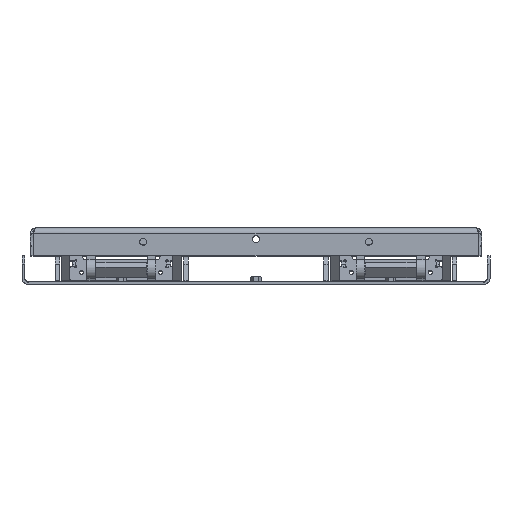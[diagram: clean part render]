
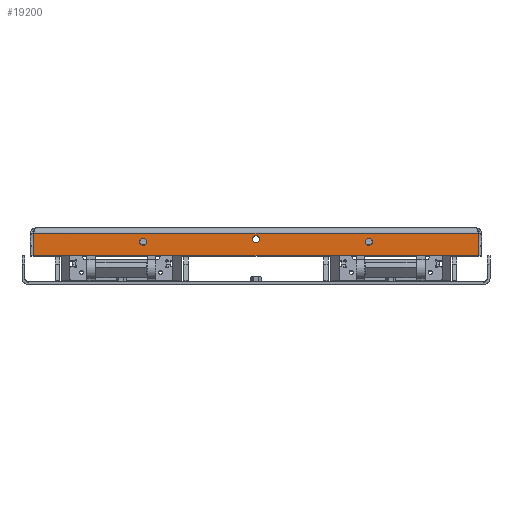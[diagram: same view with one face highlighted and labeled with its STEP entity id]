
A CAD part, front view. The second image highlights one B-rep face of the part: STEP entity #19200.
In plain terms, the highlighted planar face has unit normal (0, -1, 0.001) as drawn and (-1, 0, 0) by its records, which use the part's own axes.
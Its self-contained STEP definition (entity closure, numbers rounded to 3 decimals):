
#587=FACE_BOUND('',#4213,.T.);
#588=FACE_BOUND('',#4214,.T.);
#589=FACE_BOUND('',#4215,.T.);
#1436=CIRCLE('',#21164,1.);
#1438=CIRCLE('',#21167,1.);
#1439=CIRCLE('',#21168,1.);
#1440=CIRCLE('',#21169,1.);
#1441=CIRCLE('',#21170,6.25);
#1442=CIRCLE('',#21171,6.25);
#1443=CIRCLE('',#21172,6.25);
#3007=FACE_OUTER_BOUND('',#4212,.T.);
#4212=EDGE_LOOP('',(#16347,#16348,#16349,#16350,#16351,#16352,#16353,#16354,
#16355,#16356));
#4213=EDGE_LOOP('',(#16357));
#4214=EDGE_LOOP('',(#16358));
#4215=EDGE_LOOP('',(#16359));
#5765=LINE('',#31766,#7375);
#5766=LINE('',#31770,#7376);
#5767=LINE('',#31772,#7377);
#5768=LINE('',#31774,#7378);
#5769=LINE('',#31778,#7379);
#5770=LINE('',#31781,#7380);
#7375=VECTOR('',#26015,10.);
#7376=VECTOR('',#26018,10.);
#7377=VECTOR('',#26019,10.);
#7378=VECTOR('',#26020,10.);
#7379=VECTOR('',#26023,10.);
#7380=VECTOR('',#26026,10.);
#9143=VERTEX_POINT('',#31756);
#9144=VERTEX_POINT('',#31757);
#9147=VERTEX_POINT('',#31765);
#9148=VERTEX_POINT('',#31767);
#9149=VERTEX_POINT('',#31769);
#9150=VERTEX_POINT('',#31771);
#9151=VERTEX_POINT('',#31773);
#9152=VERTEX_POINT('',#31775);
#9153=VERTEX_POINT('',#31777);
#9154=VERTEX_POINT('',#31779);
#9155=VERTEX_POINT('',#31782);
#9156=VERTEX_POINT('',#31784);
#9157=VERTEX_POINT('',#31786);
#11666=EDGE_CURVE('',#9143,#9144,#1436,.T.);
#11670=EDGE_CURVE('',#9143,#9147,#5765,.T.);
#11671=EDGE_CURVE('',#9148,#9147,#1438,.T.);
#11672=EDGE_CURVE('',#9148,#9149,#5766,.T.);
#11673=EDGE_CURVE('',#9149,#9150,#5767,.T.);
#11674=EDGE_CURVE('',#9150,#9151,#5768,.T.);
#11675=EDGE_CURVE('',#9152,#9151,#1439,.T.);
#11676=EDGE_CURVE('',#9152,#9153,#5769,.T.);
#11677=EDGE_CURVE('',#9154,#9153,#1440,.T.);
#11678=EDGE_CURVE('',#9144,#9154,#5770,.T.);
#11679=EDGE_CURVE('',#9155,#9155,#1441,.T.);
#11680=EDGE_CURVE('',#9156,#9156,#1442,.T.);
#11681=EDGE_CURVE('',#9157,#9157,#1443,.T.);
#16347=ORIENTED_EDGE('',*,*,#11666,.F.);
#16348=ORIENTED_EDGE('',*,*,#11670,.T.);
#16349=ORIENTED_EDGE('',*,*,#11671,.F.);
#16350=ORIENTED_EDGE('',*,*,#11672,.T.);
#16351=ORIENTED_EDGE('',*,*,#11673,.T.);
#16352=ORIENTED_EDGE('',*,*,#11674,.T.);
#16353=ORIENTED_EDGE('',*,*,#11675,.F.);
#16354=ORIENTED_EDGE('',*,*,#11676,.T.);
#16355=ORIENTED_EDGE('',*,*,#11677,.F.);
#16356=ORIENTED_EDGE('',*,*,#11678,.F.);
#16357=ORIENTED_EDGE('',*,*,#11679,.T.);
#16358=ORIENTED_EDGE('',*,*,#11680,.T.);
#16359=ORIENTED_EDGE('',*,*,#11681,.T.);
#18393=PLANE('',#21166);
#19200=ADVANCED_FACE('',(#3007,#587,#588,#589),#18393,.F.);
#21164=AXIS2_PLACEMENT_3D('',#31758,#26007,#26008);
#21166=AXIS2_PLACEMENT_3D('',#31764,#26013,#26014);
#21167=AXIS2_PLACEMENT_3D('',#31768,#26016,#26017);
#21168=AXIS2_PLACEMENT_3D('',#31776,#26021,#26022);
#21169=AXIS2_PLACEMENT_3D('',#31780,#26024,#26025);
#21170=AXIS2_PLACEMENT_3D('',#31783,#26027,#26028);
#21171=AXIS2_PLACEMENT_3D('',#31785,#26029,#26030);
#21172=AXIS2_PLACEMENT_3D('',#31787,#26031,#26032);
#26007=DIRECTION('center_axis',(1.,0.,0.));
#26008=DIRECTION('ref_axis',(0.,0.707,0.707));
#26013=DIRECTION('center_axis',(1.,0.,0.));
#26014=DIRECTION('ref_axis',(0.,0.,-1.));
#26015=DIRECTION('',(0.,0.,-1.));
#26016=DIRECTION('center_axis',(1.,0.,0.));
#26017=DIRECTION('ref_axis',(0.,1.,-0.029));
#26018=DIRECTION('',(0.,-0.057,-0.998));
#26019=DIRECTION('',(0.,-1.,0.));
#26020=DIRECTION('',(0.,-0.057,0.998));
#26021=DIRECTION('center_axis',(1.,0.,0.));
#26022=DIRECTION('ref_axis',(0.,-1.,-0.029));
#26023=DIRECTION('',(0.,0.,1.));
#26024=DIRECTION('center_axis',(1.,0.,0.));
#26025=DIRECTION('ref_axis',(0.,-0.707,0.707));
#26026=DIRECTION('',(0.,-1.,0.));
#26027=DIRECTION('center_axis',(1.,0.,0.));
#26028=DIRECTION('ref_axis',(0.,0.,-1.));
#26029=DIRECTION('center_axis',(1.,0.,0.));
#26030=DIRECTION('ref_axis',(0.,0.,-1.));
#26031=DIRECTION('center_axis',(1.,0.,0.));
#26032=DIRECTION('ref_axis',(0.,0.,-1.));
#31756=CARTESIAN_POINT('',(-675.,394.89,49.));
#31757=CARTESIAN_POINT('',(-675.,393.89,50.));
#31758=CARTESIAN_POINT('Origin',(-675.,393.89,49.));
#31764=CARTESIAN_POINT('Origin',(-675.,0.,25.015));
#31765=CARTESIAN_POINT('',(-675.,394.89,24.608));
#31766=CARTESIAN_POINT('',(-675.,394.89,37.508));
#31767=CARTESIAN_POINT('',(-675.,394.888,24.551));
#31768=CARTESIAN_POINT('Origin',(-675.,393.89,24.608));
#31769=CARTESIAN_POINT('',(-675.,394.057,10.));
#31770=CARTESIAN_POINT('',(-675.,394.26,13.551));
#31771=CARTESIAN_POINT('',(-675.,-394.057,10.));
#31772=CARTESIAN_POINT('',(-675.,0.,10.));
#31773=CARTESIAN_POINT('',(-675.,-394.888,24.551));
#31774=CARTESIAN_POINT('',(-675.,-394.26,13.551));
#31775=CARTESIAN_POINT('',(-675.,-394.89,24.608));
#31776=CARTESIAN_POINT('Origin',(-675.,-393.89,24.608));
#31777=CARTESIAN_POINT('',(-675.,-394.89,49.));
#31778=CARTESIAN_POINT('',(-675.,-394.89,37.508));
#31779=CARTESIAN_POINT('',(-675.,-393.89,50.));
#31780=CARTESIAN_POINT('Origin',(-675.,-393.89,49.));
#31781=CARTESIAN_POINT('',(-675.,394.9,50.));
#31782=CARTESIAN_POINT('',(-675.,-200.,31.25));
#31783=CARTESIAN_POINT('Origin',(-675.,-200.,25.));
#31784=CARTESIAN_POINT('',(-675.,0.,26.25));
#31785=CARTESIAN_POINT('Origin',(-675.,0.,20.));
#31786=CARTESIAN_POINT('',(-675.,200.,31.25));
#31787=CARTESIAN_POINT('Origin',(-675.,200.,25.));
